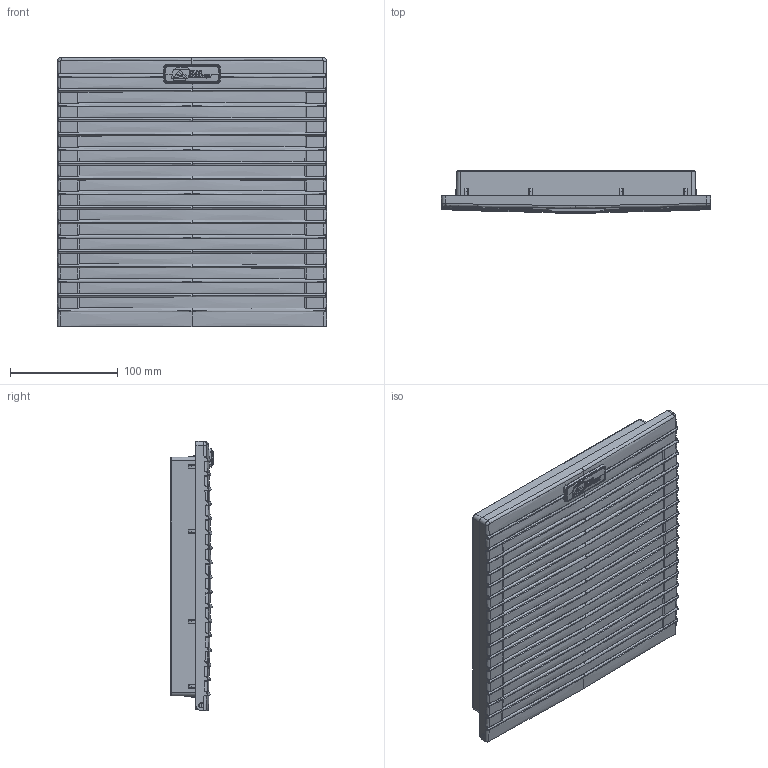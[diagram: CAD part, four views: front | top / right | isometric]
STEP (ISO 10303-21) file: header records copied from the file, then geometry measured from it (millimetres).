
FILE_DESCRIPTION(/* description */ (''),/* implementation_level */ '2;1');
FILE_NAME(/* name */ 'ATV400~1',/* time_stamp */ '2019-02-07T17:02:11+01:00',/* author */ (''),/* organization */ (''),/* preprocessor_version */ 'ST-DEVELOPER v16.5',/* originating_system */ '',/* authorisation */ '');
FILE_SCHEMA (('AUTOMOTIVE_DESIGN'));
Products named in the file (1): Document
Bounding box: 250 x 39 x 250 mm (x, y, z)
Surface area: 342386.3 mm2 (no closed solid volume)
Topology: 0 solids, 2264 shells, 2599 faces, 12074 edges, 11611 vertices
Faces by surface type: bspline 2144, plane 455
Entity records: 277683 total; most frequent: CARTESIAN_POINT 194731, ORIENTED_EDGE 12774, EDGE_CURVE 11941, VERTEX_POINT 11620, B_SPLINE_CURVE_WITH_KNOTS 10949, EDGE_LOOP 2638, ADVANCED_FACE 2599, FACE_OUTER_BOUND 2599
